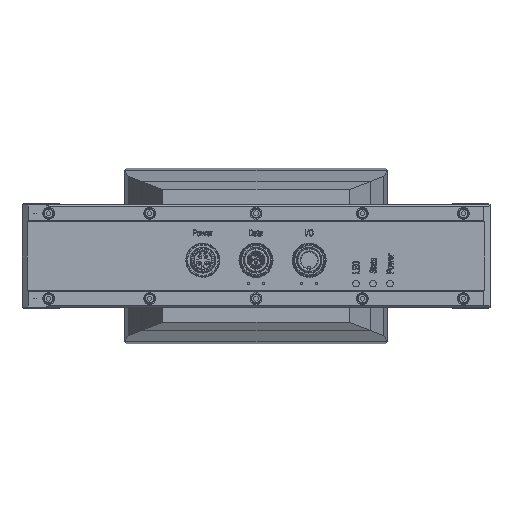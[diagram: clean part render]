
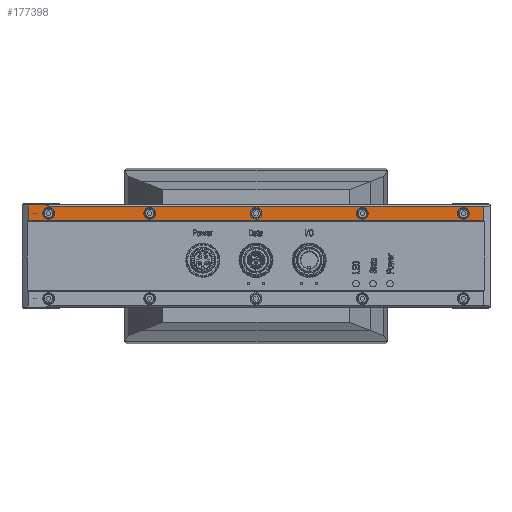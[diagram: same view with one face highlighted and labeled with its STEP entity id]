
A CAD part, front view. The second image highlights one B-rep face of the part: STEP entity #177398.
In plain terms, the highlighted planar face has unit normal (0, -1, 0).
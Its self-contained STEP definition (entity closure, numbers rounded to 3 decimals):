
#55436=DIRECTION('',(1.,0.,0.));
#55437=VECTOR('',#55436,204.5);
#55438=CARTESIAN_POINT('',(12.5,-11.,-0.5));
#55439=LINE('',#55438,#55437);
#55443=CARTESIAN_POINT('',(11.,-11.,0.));
#55444=CARTESIAN_POINT('',(11.049,-11.,-0.029));
#55445=CARTESIAN_POINT('',(11.143,-11.,-0.084));
#55446=CARTESIAN_POINT('',(11.276,-11.,-0.156));
#55447=CARTESIAN_POINT('',(11.403,-11.,-0.22));
#55448=CARTESIAN_POINT('',(11.515,-11.,-0.271));
#55449=CARTESIAN_POINT('',(11.648,-11.,-0.327));
#55450=CARTESIAN_POINT('',(11.765,-11.,-0.37));
#55451=CARTESIAN_POINT('',(11.88,-11.,-0.407));
#55452=CARTESIAN_POINT('',(11.988,-11.,-0.436));
#55453=CARTESIAN_POINT('',(12.091,-11.,-0.46));
#55454=CARTESIAN_POINT('',(12.196,-11.,-0.478));
#55455=CARTESIAN_POINT('',(12.298,-11.,-0.491));
#55456=CARTESIAN_POINT('',(12.4,-11.,-0.498));
#55457=CARTESIAN_POINT('',(12.467,-11.,-0.5));
#55458=CARTESIAN_POINT('',(12.5,-11.,-0.5));
#55463=DIRECTION('',(0.,0.,1.));
#55464=VECTOR('',#55463,7.);
#55465=CARTESIAN_POINT('',(217.,-11.,-7.5));
#55466=LINE('',#55465,#55464);
#55470=DIRECTION('',(1.,0.,0.));
#55471=VECTOR('',#55470,214.);
#55472=CARTESIAN_POINT('',(3.,-11.,-7.5));
#55473=LINE('',#55472,#55471);
#55477=DIRECTION('',(0.,0.,-1.));
#55478=VECTOR('',#55477,7.5);
#55479=CARTESIAN_POINT('',(3.,-11.,0.));
#55480=LINE('',#55479,#55478);
#55484=CARTESIAN_POINT('',(207.5,-11.,-4.));
#55485=DIRECTION('',(0.,1.,0.));
#55486=DIRECTION('',(1.,0.,0.));
#55487=AXIS2_PLACEMENT_3D('',#55484,#55485,#55486);
#55492=CARTESIAN_POINT('',(207.5,-11.,-4.));
#55493=DIRECTION('',(0.,1.,0.));
#55494=DIRECTION('',(-1.,0.,0.));
#55495=AXIS2_PLACEMENT_3D('',#55492,#55493,#55494);
#55500=CARTESIAN_POINT('',(160.,-11.,-4.));
#55501=DIRECTION('',(0.,1.,0.));
#55502=DIRECTION('',(1.,0.,0.));
#55503=AXIS2_PLACEMENT_3D('',#55500,#55501,#55502);
#55508=CARTESIAN_POINT('',(160.,-11.,-4.));
#55509=DIRECTION('',(0.,1.,0.));
#55510=DIRECTION('',(-1.,0.,0.));
#55511=AXIS2_PLACEMENT_3D('',#55508,#55509,#55510);
#55516=CARTESIAN_POINT('',(110.,-11.,-4.));
#55517=DIRECTION('',(0.,1.,0.));
#55518=DIRECTION('',(1.,0.,0.));
#55519=AXIS2_PLACEMENT_3D('',#55516,#55517,#55518);
#55524=CARTESIAN_POINT('',(110.,-11.,-4.));
#55525=DIRECTION('',(0.,1.,0.));
#55526=DIRECTION('',(-1.,0.,0.));
#55527=AXIS2_PLACEMENT_3D('',#55524,#55525,#55526);
#55532=CARTESIAN_POINT('',(60.,-11.,-4.));
#55533=DIRECTION('',(0.,1.,0.));
#55534=DIRECTION('',(1.,0.,0.));
#55535=AXIS2_PLACEMENT_3D('',#55532,#55533,#55534);
#55540=CARTESIAN_POINT('',(60.,-11.,-4.));
#55541=DIRECTION('',(0.,1.,0.));
#55542=DIRECTION('',(-1.,0.,0.));
#55543=AXIS2_PLACEMENT_3D('',#55540,#55541,#55542);
#55548=CARTESIAN_POINT('',(12.5,-11.,-4.));
#55549=DIRECTION('',(0.,1.,0.));
#55550=DIRECTION('',(1.,0.,0.));
#55551=AXIS2_PLACEMENT_3D('',#55548,#55549,#55550);
#55556=CARTESIAN_POINT('',(12.5,-11.,-4.));
#55557=DIRECTION('',(0.,1.,0.));
#55558=DIRECTION('',(-1.,0.,0.));
#55559=AXIS2_PLACEMENT_3D('',#55556,#55557,#55558);
#56327=DIRECTION('',(1.,0.,0.));
#56328=VECTOR('',#56327,8.);
#56329=CARTESIAN_POINT('',(3.,-11.,0.));
#56330=LINE('',#56329,#56328);
#116404=CARTESIAN_POINT('',(3.,-11.,-7.5));
#116406=VERTEX_POINT('',#116404);
#116408=CARTESIAN_POINT('',(3.,-11.,0.));
#116409=VERTEX_POINT('',#116408);
#116412=CARTESIAN_POINT('',(217.,-11.,-7.5));
#116414=VERTEX_POINT('',#116412);
#116418=CARTESIAN_POINT('',(217.,-11.,
-0.5));
#116419=VERTEX_POINT('',#116418);
#117664=VERTEX_POINT('',#55443);
#117665=VERTEX_POINT('',#55458);
#122159=CARTESIAN_POINT('',(204.75,-11.,-4.));
#122161=VERTEX_POINT('',#122159);
#122162=CARTESIAN_POINT('',(210.25,-11.,-4.));
#122163=VERTEX_POINT('',#122162);
#122178=CARTESIAN_POINT('',(157.25,-11.,-4.));
#122180=VERTEX_POINT('',#122178);
#122181=CARTESIAN_POINT('',(162.75,-11.,-4.));
#122182=VERTEX_POINT('',#122181);
#122197=CARTESIAN_POINT('',(107.25,-11.,-4.));
#122199=VERTEX_POINT('',#122197);
#122200=CARTESIAN_POINT('',(112.75,-11.,-4.));
#122201=VERTEX_POINT('',#122200);
#122216=CARTESIAN_POINT('',(57.25,-11.,-4.));
#122218=VERTEX_POINT('',#122216);
#122219=CARTESIAN_POINT('',(62.75,-11.,-4.));
#122220=VERTEX_POINT('',#122219);
#122235=CARTESIAN_POINT('',(9.75,-11.,-4.));
#122237=VERTEX_POINT('',#122235);
#122238=CARTESIAN_POINT('',(15.25,-11.,-4.));
#122239=VERTEX_POINT('',#122238);
#177353=CARTESIAN_POINT('',(110.,-11.,-3.75));
#177354=DIRECTION('',(0.,1.,0.));
#177355=DIRECTION('',(-1.,0.,0.));
#177356=AXIS2_PLACEMENT_3D('',#177353,#177354,#177355);
#177357=PLANE('',#177356);
#177358=ORIENTED_EDGE('',*,*,#177339,.T.);
#177359=ORIENTED_EDGE('',*,*,#177322,.T.);
#177360=ORIENTED_EDGE('',*,*,#134926,.F.);
#177361=ORIENTED_EDGE('',*,*,#134901,.F.);
#177363=ORIENTED_EDGE('',*,*,#177362,.F.);
#177365=ORIENTED_EDGE('',*,*,#177364,.T.);
#177366=EDGE_LOOP('',(#177358,#177359,#177360,#177361,#177363,#177365));
#177367=FACE_OUTER_BOUND('',#177366,.F.);
#177369=ORIENTED_EDGE('',*,*,#177368,.F.);
#177371=ORIENTED_EDGE('',*,*,#177370,.F.);
#177372=EDGE_LOOP('',(#177369,#177371));
#177373=FACE_BOUND('',#177372,.F.);
#177375=ORIENTED_EDGE('',*,*,#177374,.F.);
#177377=ORIENTED_EDGE('',*,*,#177376,.F.);
#177378=EDGE_LOOP('',(#177375,#177377));
#177379=FACE_BOUND('',#177378,.F.);
#177381=ORIENTED_EDGE('',*,*,#177380,.F.);
#177383=ORIENTED_EDGE('',*,*,#177382,.F.);
#177384=EDGE_LOOP('',(#177381,#177383));
#177385=FACE_BOUND('',#177384,.F.);
#177387=ORIENTED_EDGE('',*,*,#177386,.F.);
#177389=ORIENTED_EDGE('',*,*,#177388,.F.);
#177390=EDGE_LOOP('',(#177387,#177389));
#177391=FACE_BOUND('',#177390,.F.);
#177393=ORIENTED_EDGE('',*,*,#177392,.F.);
#177395=ORIENTED_EDGE('',*,*,#177394,.F.);
#177396=EDGE_LOOP('',(#177393,#177395));
#177397=FACE_BOUND('',#177396,.F.);
#55459=B_SPLINE_CURVE_WITH_KNOTS('',3,(#55443,#55444,#55445,#55446,#55447,
#55448,#55449,#55450,#55451,#55452,#55453,#55454,#55455,#55456,#55457,#55458),
.UNSPECIFIED.,.F.,.F.,(4,1,1,1,1,1,1,1,1,1,1,1,1,4),(0.,0.077,
0.154,0.231,0.308,0.385,
0.462,0.538,0.615,0.692,
0.769,0.846,0.923,1.),.UNSPECIFIED.);
#55488=CIRCLE('',#55487,2.75);
#55496=CIRCLE('',#55495,2.75);
#55504=CIRCLE('',#55503,2.75);
#55512=CIRCLE('',#55511,2.75);
#55520=CIRCLE('',#55519,2.75);
#55528=CIRCLE('',#55527,2.75);
#55536=CIRCLE('',#55535,2.75);
#55544=CIRCLE('',#55543,2.75);
#55552=CIRCLE('',#55551,2.75);
#55560=CIRCLE('',#55559,2.75);
#134901=EDGE_CURVE('',#116406,#116414,#55473,.T.);
#134926=EDGE_CURVE('',#116414,#116419,#55466,.T.);
#177322=EDGE_CURVE('',#117665,#116419,#55439,.T.);
#177339=EDGE_CURVE('',#117664,#117665,#55459,.T.);
#177362=EDGE_CURVE('',#116409,#116406,#55480,.T.);
#177364=EDGE_CURVE('',#116409,#117664,#56330,.T.);
#177368=EDGE_CURVE('',#122163,#122161,#55488,.T.);
#177370=EDGE_CURVE('',#122161,#122163,#55496,.T.);
#177374=EDGE_CURVE('',#122182,#122180,#55504,.T.);
#177376=EDGE_CURVE('',#122180,#122182,#55512,.T.);
#177380=EDGE_CURVE('',#122201,#122199,#55520,.T.);
#177382=EDGE_CURVE('',#122199,#122201,#55528,.T.);
#177386=EDGE_CURVE('',#122220,#122218,#55536,.T.);
#177388=EDGE_CURVE('',#122218,#122220,#55544,.T.);
#177392=EDGE_CURVE('',#122239,#122237,#55552,.T.);
#177394=EDGE_CURVE('',#122237,#122239,#55560,.T.);
#177398=ADVANCED_FACE('',(#177367,#177373,#177379,#177385,#177391,#177397),
#177357,.F.);
